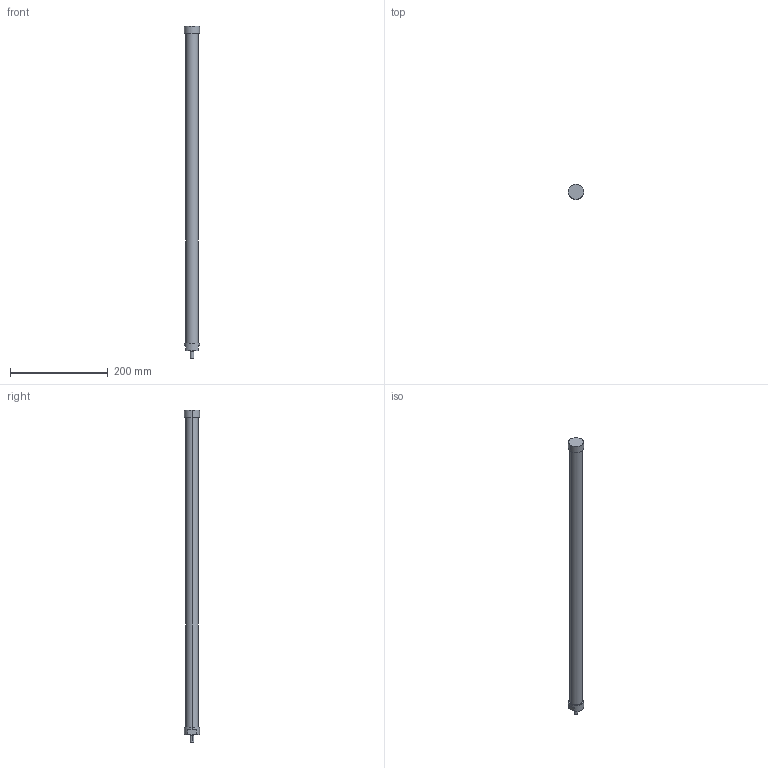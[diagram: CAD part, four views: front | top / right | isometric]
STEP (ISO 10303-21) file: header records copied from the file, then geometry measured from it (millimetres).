
FILE_DESCRIPTION(('STEP AP214'),'1');
FILE_NAME('ETT-R050M674.stp','2015-02-02T15:19:26',(' '),(' '),'Spatial InterOp 3D',' ',' ');
FILE_SCHEMA(('automotive_design'));
Length unit declared in the file: metre
Products named in the file (2): 1; 2
Bounding box: 31 x 31 x 679 mm (x, y, z)
Volume: 334038.5 mm3; surface area: 55387.4 mm2
Topology: 1 solids, 4 shells, 20 faces, 48 edges, 36 vertices
Faces by surface type: cylinder 10, plane 10
Entity records: 812 total; most frequent: DIRECTION 120, CARTESIAN_POINT 106, ORIENTED_EDGE 84, AXIS2_PLACEMENT_3D 50, EDGE_CURVE 48, VERTEX_POINT 36, CIRCLE 28, EDGE_LOOP 24
